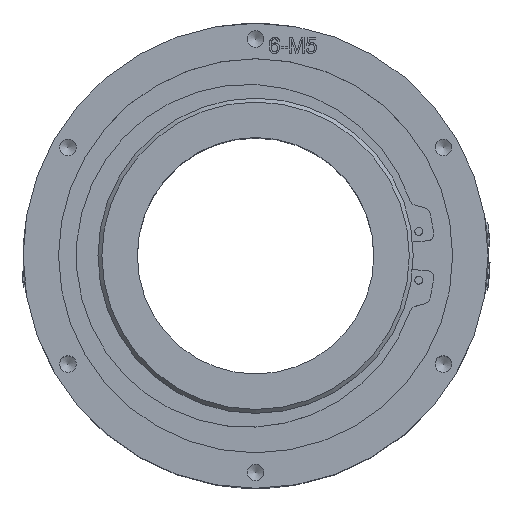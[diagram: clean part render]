
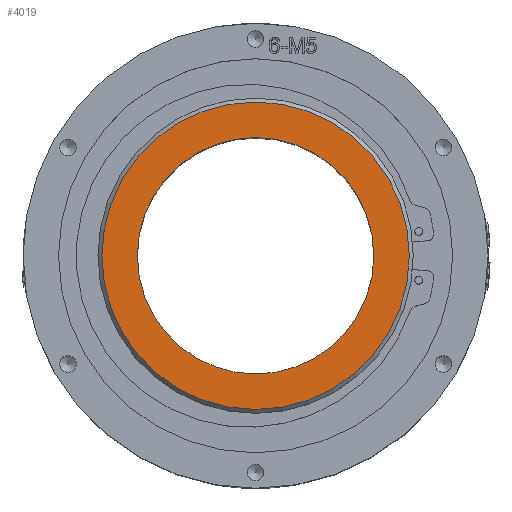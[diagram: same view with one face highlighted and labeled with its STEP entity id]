
A CAD part, top view. The second image highlights one B-rep face of the part: STEP entity #4019.
In plain terms, the highlighted planar face has unit normal (0, 0, 1).
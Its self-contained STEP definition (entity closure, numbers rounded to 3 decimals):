
#370=FACE_BOUND('',#7205,.T.);
#371=FACE_BOUND('',#7206,.T.);
#654=CIRCLE('',#25082,30.);
#658=CIRCLE('',#25090,39.);
#4019=ADVANCED_FACE('',(#370,#371),#4855,.T.);
#4855=PLANE('',#25092);
#7205=EDGE_LOOP('',(#12106));
#7206=EDGE_LOOP('',(#12107));
#12106=ORIENTED_EDGE('',*,*,#19940,.T.);
#12107=ORIENTED_EDGE('',*,*,#19936,.F.);
#16743=VERTEX_POINT('',#44018);
#16747=VERTEX_POINT('',#44030);
#19936=EDGE_CURVE('',#16743,#16743,#654,.T.);
#19940=EDGE_CURVE('',#16747,#16747,#658,.T.);
#25082=AXIS2_PLACEMENT_3D('',#44017,#27465,#27466);
#25090=AXIS2_PLACEMENT_3D('',#44029,#27481,#27482);
#25092=AXIS2_PLACEMENT_3D('',#44032,#27485,#27486);
#27465=DIRECTION('',(0.,0.,1.));
#27466=DIRECTION('',(1.,0.,0.));
#27481=DIRECTION('',(0.,0.,1.));
#27482=DIRECTION('',(1.,0.,0.));
#27485=DIRECTION('',(0.,0.,1.));
#27486=DIRECTION('',(1.,0.,0.));
#44017=CARTESIAN_POINT('',(0.,0.,93.5));
#44018=CARTESIAN_POINT('',(30.,0.,93.5));
#44029=CARTESIAN_POINT('',(0.,0.,93.5));
#44030=CARTESIAN_POINT('',(39.,0.,93.5));
#44032=CARTESIAN_POINT('',(0.,0.,93.5));
